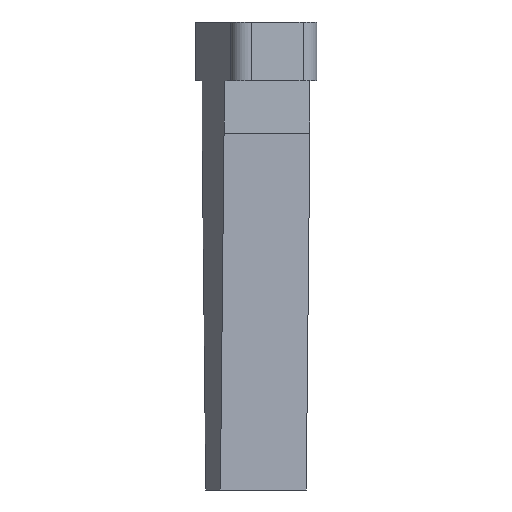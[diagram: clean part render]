
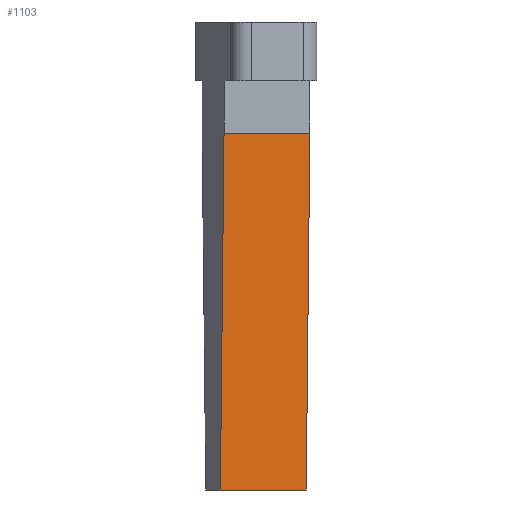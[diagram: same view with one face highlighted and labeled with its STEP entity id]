
A CAD part, left-side view. The second image highlights one B-rep face of the part: STEP entity #1103.
In plain terms, the highlighted planar face has unit normal (-0.977, -0.208, -0.049).
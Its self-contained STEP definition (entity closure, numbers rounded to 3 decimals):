
#32 = PLANE('',#33);
#33 = AXIS2_PLACEMENT_3D('',#34,#35,#36);
#34 = CARTESIAN_POINT('',(47.368,20.665,46.25));
#35 = DIRECTION('',(-0.208,0.978,0.));
#36 = DIRECTION('',(0.,0.,1.));
#166 = VERTEX_POINT('',#167);
#167 = CARTESIAN_POINT('',(42.77,19.688,32.25));
#181 = PLANE('',#182);
#182 = AXIS2_PLACEMENT_3D('',#183,#184,#185);
#183 = CARTESIAN_POINT('',(45.118,20.187,32.25));
#184 = DIRECTION('',(0.,0.,-1.));
#185 = DIRECTION('',(-0.773,0.634,0.));
#193 = EDGE_CURVE('',#166,#194,#196,.T.);
#194 = VERTEX_POINT('',#195);
#195 = CARTESIAN_POINT('',(42.183,19.563,44.45));
#196 = SURFACE_CURVE('',#197,(#200,#206),.PCURVE_S1.);
#197 = B_SPLINE_CURVE_WITH_KNOTS('',1,(#198,#199),.UNSPECIFIED.,.F.,.F.,
  (2,2),(0.,1.),.PIECEWISE_BEZIER_KNOTS.);
#198 = CARTESIAN_POINT('',(42.77,19.688,32.25));
#199 = CARTESIAN_POINT('',(42.183,19.563,44.45));
#200 = PCURVE('',#32,#201);
#201 = DEFINITIONAL_REPRESENTATION('',(#202),#205);
#202 = B_SPLINE_CURVE_WITH_KNOTS('',1,(#203,#204),.UNSPECIFIED.,.F.,.F.,
  (2,2),(0.,1.),.PIECEWISE_BEZIER_KNOTS.);
#203 = CARTESIAN_POINT('',(-14.,-4.7));
#204 = CARTESIAN_POINT('',(-1.8,-5.3));
#205 = ( GEOMETRIC_REPRESENTATION_CONTEXT(2) 
PARAMETRIC_REPRESENTATION_CONTEXT() REPRESENTATION_CONTEXT('2D SPACE',''
  ) );
#206 = PCURVE('',#207,#212);
#207 = PLANE('',#208);
#208 = AXIS2_PLACEMENT_3D('',#209,#210,#211);
#209 = CARTESIAN_POINT('',(41.56,22.498,44.45));
#210 = DIRECTION('',(-0.977,-0.208,-0.049)
  );
#211 = DIRECTION('',(0.208,-0.978,0.));
#212 = DEFINITIONAL_REPRESENTATION('',(#213),#216);
#213 = B_SPLINE_CURVE_WITH_KNOTS('',1,(#214,#215),.UNSPECIFIED.,.F.,.F.,
  (2,2),(0.,1.),.PIECEWISE_BEZIER_KNOTS.);
#214 = CARTESIAN_POINT('',(3.,-12.215));
#215 = CARTESIAN_POINT('',(3.,0.));
#216 = ( GEOMETRIC_REPRESENTATION_CONTEXT(2) 
PARAMETRIC_REPRESENTATION_CONTEXT() REPRESENTATION_CONTEXT('2D SPACE',''
  ) );
#234 = PLANE('',#235);
#235 = AXIS2_PLACEMENT_3D('',#236,#237,#238);
#236 = CARTESIAN_POINT('',(42.183,19.563,44.45));
#237 = DIRECTION('',(-0.978,-0.208,0.));
#238 = DIRECTION('',(0.,0.,1.));
#405 = PLANE('',#406);
#406 = AXIS2_PLACEMENT_3D('',#407,#408,#409);
#407 = CARTESIAN_POINT('',(46.744,23.6,46.25));
#408 = DIRECTION('',(-0.208,0.978,0.));
#409 = DIRECTION('',(0.,0.,1.));
#958 = VERTEX_POINT('',#959);
#959 = CARTESIAN_POINT('',(42.147,22.623,32.25));
#980 = EDGE_CURVE('',#958,#981,#983,.T.);
#981 = VERTEX_POINT('',#982);
#982 = CARTESIAN_POINT('',(41.56,22.498,44.45));
#983 = SURFACE_CURVE('',#984,(#987,#993),.PCURVE_S1.);
#984 = B_SPLINE_CURVE_WITH_KNOTS('',1,(#985,#986),.UNSPECIFIED.,.F.,.F.,
  (2,2),(0.,1.),.PIECEWISE_BEZIER_KNOTS.);
#985 = CARTESIAN_POINT('',(42.147,22.623,32.25));
#986 = CARTESIAN_POINT('',(41.56,22.498,44.45));
#987 = PCURVE('',#405,#988);
#988 = DEFINITIONAL_REPRESENTATION('',(#989),#992);
#989 = B_SPLINE_CURVE_WITH_KNOTS('',1,(#990,#991),.UNSPECIFIED.,.F.,.F.,
  (2,2),(0.,1.),.PIECEWISE_BEZIER_KNOTS.);
#990 = CARTESIAN_POINT('',(-14.,-4.7));
#991 = CARTESIAN_POINT('',(-1.8,-5.3));
#992 = ( GEOMETRIC_REPRESENTATION_CONTEXT(2) 
PARAMETRIC_REPRESENTATION_CONTEXT() REPRESENTATION_CONTEXT('2D SPACE',''
  ) );
#993 = PCURVE('',#207,#994);
#994 = DEFINITIONAL_REPRESENTATION('',(#995),#998);
#995 = B_SPLINE_CURVE_WITH_KNOTS('',1,(#996,#997),.UNSPECIFIED.,.F.,.F.,
  (2,2),(0.,1.),.PIECEWISE_BEZIER_KNOTS.);
#996 = CARTESIAN_POINT('',(0.,-12.215));
#997 = CARTESIAN_POINT('',(0.,0.));
#998 = ( GEOMETRIC_REPRESENTATION_CONTEXT(2) 
PARAMETRIC_REPRESENTATION_CONTEXT() REPRESENTATION_CONTEXT('2D SPACE',''
  ) );
#1053 = EDGE_CURVE('',#981,#194,#1054,.T.);
#1054 = SURFACE_CURVE('',#1055,(#1059,#1066),.PCURVE_S1.);
#1055 = LINE('',#1056,#1057);
#1056 = CARTESIAN_POINT('',(41.56,22.498,44.45));
#1057 = VECTOR('',#1058,1.);
#1058 = DIRECTION('',(0.208,-0.978,0.));
#1059 = PCURVE('',#234,#1060);
#1060 = DEFINITIONAL_REPRESENTATION('',(#1061),#1065);
#1061 = LINE('',#1062,#1063);
#1062 = CARTESIAN_POINT('',(0.,3.));
#1063 = VECTOR('',#1064,1.);
#1064 = DIRECTION('',(0.,-1.));
#1065 = ( GEOMETRIC_REPRESENTATION_CONTEXT(2) 
PARAMETRIC_REPRESENTATION_CONTEXT() REPRESENTATION_CONTEXT('2D SPACE',''
  ) );
#1066 = PCURVE('',#207,#1067);
#1067 = DEFINITIONAL_REPRESENTATION('',(#1068),#1072);
#1068 = LINE('',#1069,#1070);
#1069 = CARTESIAN_POINT('',(0.,0.));
#1070 = VECTOR('',#1071,1.);
#1071 = DIRECTION('',(1.,0.));
#1072 = ( GEOMETRIC_REPRESENTATION_CONTEXT(2) 
PARAMETRIC_REPRESENTATION_CONTEXT() REPRESENTATION_CONTEXT('2D SPACE',''
  ) );
#1103 = ADVANCED_FACE('',(#1104),#207,.T.);
#1104 = FACE_BOUND('',#1105,.T.);
#1105 = EDGE_LOOP('',(#1106,#1127,#1128,#1129));
#1106 = ORIENTED_EDGE('',*,*,#1107,.T.);
#1107 = EDGE_CURVE('',#958,#166,#1108,.T.);
#1108 = SURFACE_CURVE('',#1109,(#1113,#1120),.PCURVE_S1.);
#1109 = LINE('',#1110,#1111);
#1110 = CARTESIAN_POINT('',(42.147,22.623,32.25));
#1111 = VECTOR('',#1112,1.);
#1112 = DIRECTION('',(0.208,-0.978,0.));
#1113 = PCURVE('',#207,#1114);
#1114 = DEFINITIONAL_REPRESENTATION('',(#1115),#1119);
#1115 = LINE('',#1116,#1117);
#1116 = CARTESIAN_POINT('',(0.,-12.215));
#1117 = VECTOR('',#1118,1.);
#1118 = DIRECTION('',(1.,0.));
#1119 = ( GEOMETRIC_REPRESENTATION_CONTEXT(2) 
PARAMETRIC_REPRESENTATION_CONTEXT() REPRESENTATION_CONTEXT('2D SPACE',''
  ) );
#1120 = PCURVE('',#181,#1121);
#1121 = DEFINITIONAL_REPRESENTATION('',(#1122),#1126);
#1122 = LINE('',#1123,#1124);
#1123 = CARTESIAN_POINT('',(3.842,0.));
#1124 = VECTOR('',#1125,1.);
#1125 = DIRECTION('',(-0.781,-0.625));
#1126 = ( GEOMETRIC_REPRESENTATION_CONTEXT(2) 
PARAMETRIC_REPRESENTATION_CONTEXT() REPRESENTATION_CONTEXT('2D SPACE',''
  ) );
#1127 = ORIENTED_EDGE('',*,*,#193,.T.);
#1128 = ORIENTED_EDGE('',*,*,#1053,.F.);
#1129 = ORIENTED_EDGE('',*,*,#980,.F.);
